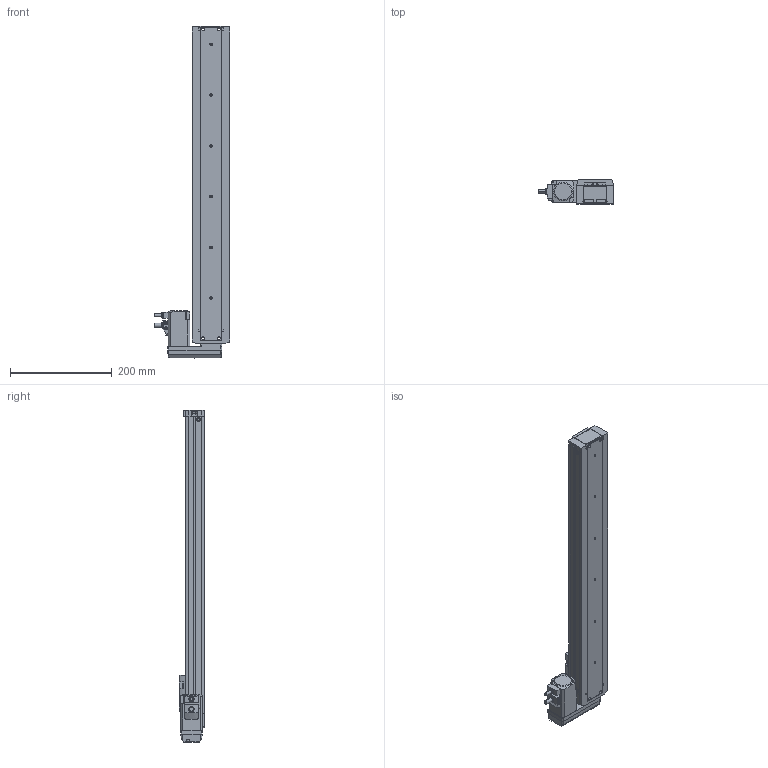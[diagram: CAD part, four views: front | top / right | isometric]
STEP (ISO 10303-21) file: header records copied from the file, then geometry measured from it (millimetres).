
FILE_DESCRIPTION (( 'STEP AP203' ), '1' );
FILE_NAME ('EZSM4RD050AZAK.step', '2015-06-30T16:48:14', ( 'om' ), ( 'Hewlett-Packard Company' ), 'SwSTEP 2.0', 'SolidWorks 2014', '' );
FILE_SCHEMA (( 'CONFIG_CONTROL_DESIGN' ));
Length unit declared in the file: millimetre
Products named in the file (4): EZSM4RD050AZAK_Table; EZSM4RD050AZAK; EZSM4RD050AZAK_Motor; EZSM4RD050AZAK_BASE
Assembly tree (3 placements, depth 2):
  EZSM4RD050AZAK
    EZSM4RD050AZAK_Motor
    EZSM4RD050AZAK_BASE
    EZSM4RD050AZAK_Table
Bounding box: 149 x 50 x 653.9 mm (x, y, z)
Volume: 1951363.9 mm3; surface area: 214254 mm2
Topology: 3 solids, 5 shells, 878 faces, 2219 edges, 1423 vertices
Faces by surface type: plane 549, cylinder 249, cone 58, torus 19, sphere 2, bspline 1
Entity records: 26979 total; most frequent: CARTESIAN_POINT 5130, DIRECTION 4476, ORIENTED_EDGE 4422, EDGE_CURVE 2211, VECTOR 1574, LINE 1574, AXIS2_PLACEMENT_3D 1451, VERTEX_POINT 1423
